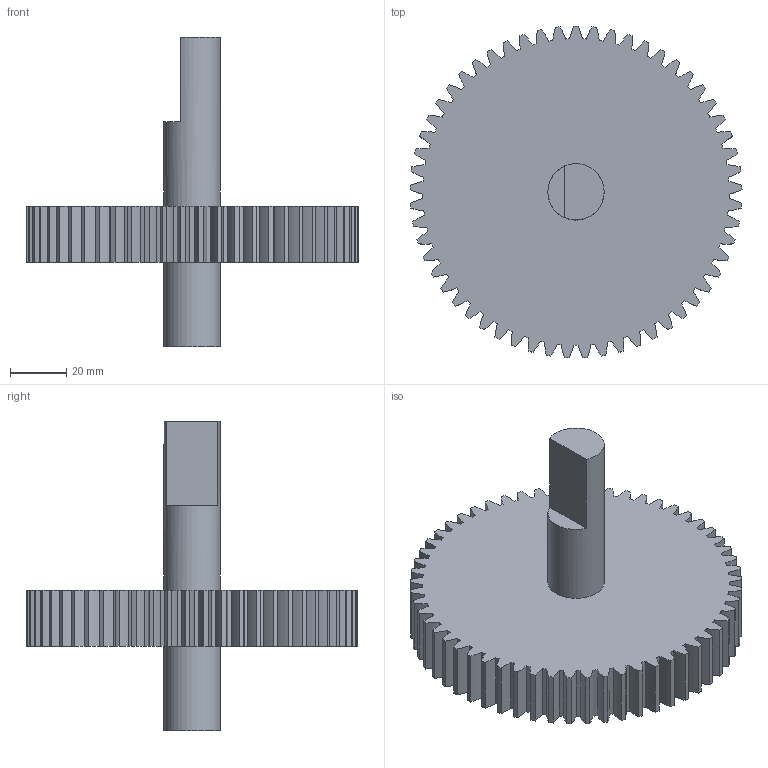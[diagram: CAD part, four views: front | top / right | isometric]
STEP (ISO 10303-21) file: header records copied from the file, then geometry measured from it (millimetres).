
FILE_DESCRIPTION(('STEP AP242'), '1');
FILE_NAME('Øåñòåð¸íêà áîëüøàÿ', '', ('UNSPECIFIED'), ('UNSPECIFIED'), 'C3D Converter', 'C3D Toolkit', '');
FILE_SCHEMA(('AP242_MANAGED_MODEL_BASED_3D_ENGINEERING_MIM_LF { 1 0 10303 442 1 1 4 }'));
Length unit declared in the file: millimetre
Bounding box: 117.99 x 117.95 x 110 mm (x, y, z)
Volume: 229064.7 mm3; surface area: 40269.4 mm2
Topology: 1 solids, 1 shells, 236 faces, 696 edges, 464 vertices
Faces by surface type: cylinder 230, plane 6
Full cylindrical faces by diameter (mm): 20 x2
Entity records: 8192 total; most frequent: DIRECTION 1630, CARTESIAN_POINT 1395, ORIENTED_EDGE 1388, AXIS2_PLACEMENT_3D 699, EDGE_CURVE 694, VERTEX_POINT 464, CIRCLE 462, EDGE_LOOP 240
